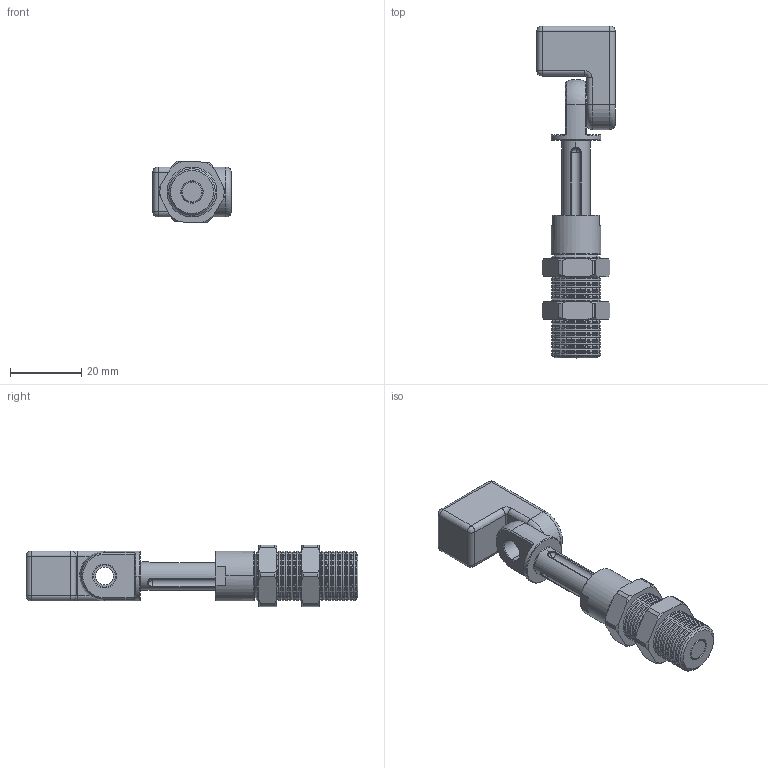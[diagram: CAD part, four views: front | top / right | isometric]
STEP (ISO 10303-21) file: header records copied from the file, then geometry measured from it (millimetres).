
FILE_DESCRIPTION (( 'STEP AP214' ), '1' );
FILE_NAME ('VFET1421-G18.STEP', '2019-11-15T07:13:41', ( '微软用户' ), ( '微软中国' ), 'SwSTEP 2.0', 'SolidWorks 2016', '' );
FILE_SCHEMA (( 'AUTOMOTIVE_DESIGN' ));
Length unit declared in the file: millimetre
Products named in the file (1): VFET1421-G18
Bounding box: 22 x 93 x 17.31 mm (x, y, z)
Volume: 12668.7 mm3; surface area: 11104.3 mm2
Topology: 6 solids, 6 shells, 452 faces, 1012 edges, 567 vertices
Faces by surface type: cone 216, cylinder 147, plane 53, sphere 20, bspline 10, torus 6
Entity records: 20123 total; most frequent: CARTESIAN_POINT 5077, DIRECTION 2226, ORIENTED_EDGE 2000, EDGE_CURVE 1000, AXIS2_PLACEMENT_3D 900, VERTEX_POINT 565, EDGE_LOOP 477, UNCERTAINTY_MEASURE_WITH_UNIT 460
